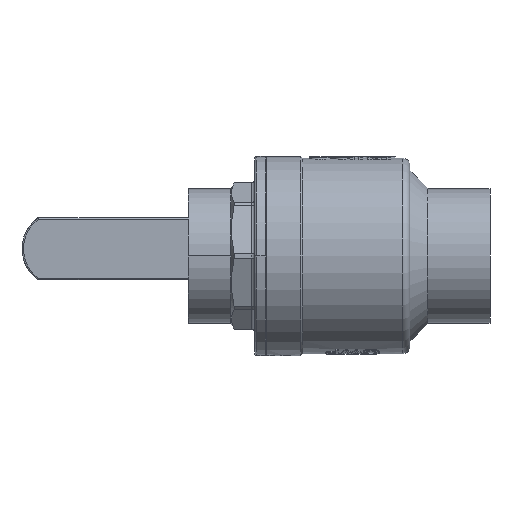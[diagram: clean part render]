
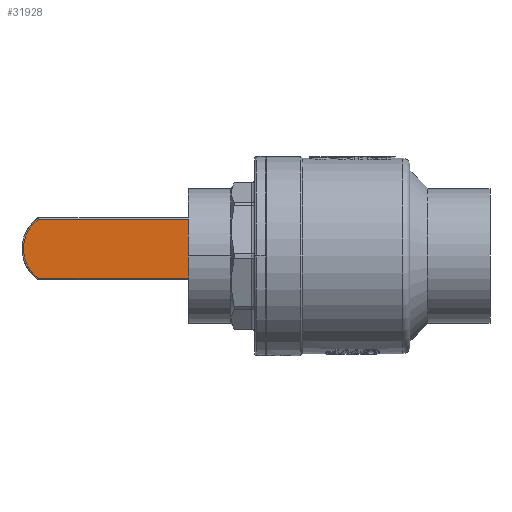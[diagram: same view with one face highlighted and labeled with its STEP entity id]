
A CAD part, front view. The second image highlights one B-rep face of the part: STEP entity #31928.
In plain terms, the highlighted planar face has unit normal (0, -1, 0).
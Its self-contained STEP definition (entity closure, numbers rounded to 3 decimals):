
#3885 = ORIENTED_EDGE ( 'NONE', *, *, #26741, .T. ) ;
#5820 = CARTESIAN_POINT ( 'NONE',  ( -146.531, -6., -19.75 ) ) ;
#5836 = DIRECTION ( 'NONE',  ( -1., 0., 0. ) ) ;
#9939 = LINE ( 'NONE', #5820, #55944 ) ;
#13182 = DIRECTION ( 'NONE',  ( -1., 0., 0. ) ) ;
#14834 = CARTESIAN_POINT ( 'NONE',  ( -146.031, -6., 19.75 ) ) ;
#15891 = AXIS2_PLACEMENT_3D ( 'NONE', #64548, #36237, #5836 ) ;
#16532 = DIRECTION ( 'NONE',  ( 1., 0., 0. ) ) ;
#19386 = ORIENTED_EDGE ( 'NONE', *, *, #47387, .T. ) ;
#26021 = CARTESIAN_POINT ( 'NONE',  ( -24.5, -6., 0. ) ) ;
#26741 = EDGE_CURVE ( 'NONE', #67596, #89345, #82262, .T. ) ;
#30076 = VECTOR ( 'NONE', #83395, 1000. ) ;
#31928 = ADVANCED_FACE ( 'NONE', ( #41687 ), #65785, .F. ) ;
#36237 = DIRECTION ( 'NONE',  ( 0., 1., 0. ) ) ;
#41687 = FACE_OUTER_BOUND ( 'NONE', #122034, .T. ) ;
#42307 = VERTEX_POINT ( 'NONE', #61736 ) ;
#46972 = DIRECTION ( 'NONE',  ( 0., -1., 0. ) ) ;
#47387 = EDGE_CURVE ( 'NONE', #89345, #42307, #9939, .T. ) ;
#50232 = AXIS2_PLACEMENT_3D ( 'NONE', #26021, #46972, #104844 ) ;
#55944 = VECTOR ( 'NONE', #16532, 1000. ) ;
#61736 = CARTESIAN_POINT ( 'NONE',  ( -10.002, -6., -19.75 ) ) ;
#64548 = CARTESIAN_POINT ( 'NONE',  ( -146.531, -6., 19.75 ) ) ;
#65785 = PLANE ( 'NONE',  #15891 ) ;
#67596 = VERTEX_POINT ( 'NONE', #113018 ) ;
#80501 = EDGE_CURVE ( 'NONE', #42307, #92281, #96498, .T. ) ;
#81722 = CARTESIAN_POINT ( 'NONE',  ( -146.531, -6., 19.75 ) ) ;
#82262 = LINE ( 'NONE', #14834, #30076 ) ;
#83344 = EDGE_CURVE ( 'NONE', #92281, #67596, #125512, .T. ) ;
#83395 = DIRECTION ( 'NONE',  ( 0., 0., -1. ) ) ;
#89345 = VERTEX_POINT ( 'NONE', #112533 ) ;
#90098 = VECTOR ( 'NONE', #13182, 1000. ) ;
#91020 = ORIENTED_EDGE ( 'NONE', *, *, #80501, .T. ) ;
#92281 = VERTEX_POINT ( 'NONE', #95422 ) ;
#95422 = CARTESIAN_POINT ( 'NONE',  ( -10.002, -6., 19.75 ) ) ;
#96498 = CIRCLE ( 'NONE', #50232, 24.5 ) ;
#104844 = DIRECTION ( 'NONE',  ( -1., 0., 0. ) ) ;
#109137 = ORIENTED_EDGE ( 'NONE', *, *, #83344, .T. ) ;
#112533 = CARTESIAN_POINT ( 'NONE',  ( -146.031, -6., -19.75 ) ) ;
#113018 = CARTESIAN_POINT ( 'NONE',  ( -146.031, -6., 19.75 ) ) ;
#122034 = EDGE_LOOP ( 'NONE', ( #109137, #3885, #19386, #91020 ) ) ;
#125512 = LINE ( 'NONE', #81722, #90098 ) ;
